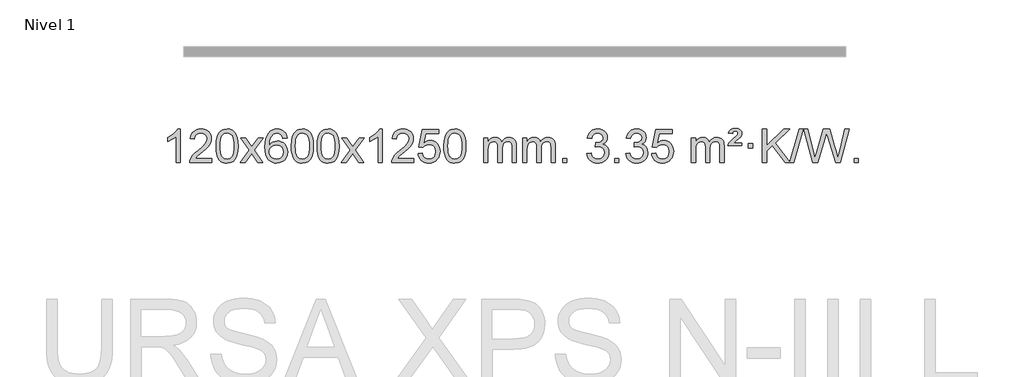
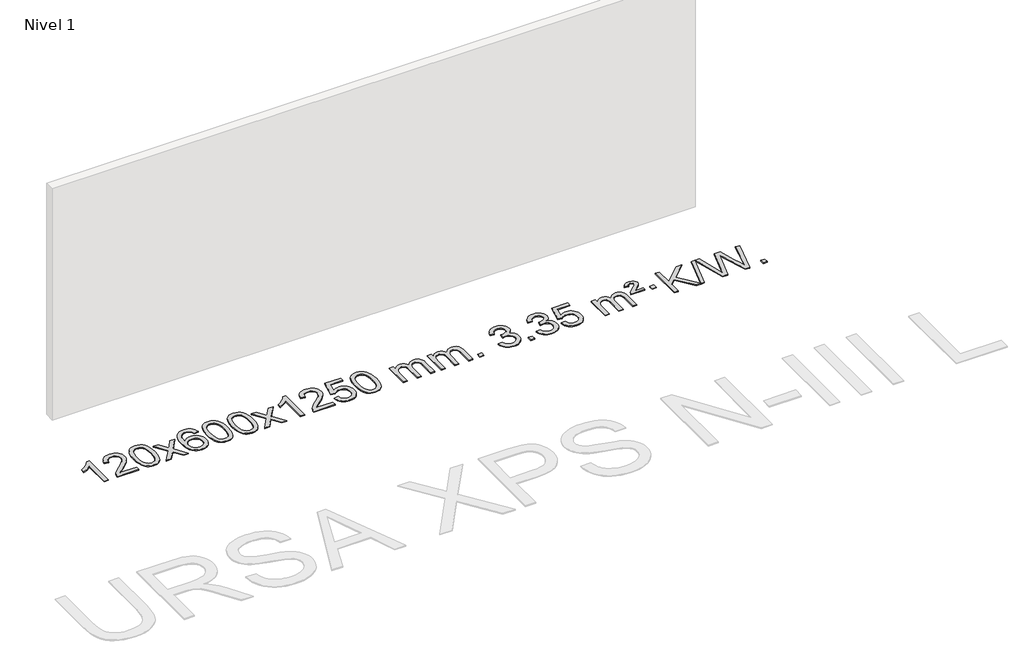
# One storey, part 2 of 8: 1 proxy.
"""IFC4 building model written with IfcOpenShell, lengths in millimetres."""

from ifc_helpers import new_model, si_unit, origin, origin_with_axes, place, context, project, spatial, polyline, outline, extrude, element, save

model = new_model("IFC4")

# Units and contexts
model_context = context("Model", 3, world=origin())
ifc_project = project(units=[si_unit("LENGTHUNIT", "METRE", prefix="MILLI")], contexts=[model_context])

# Site, building, storey
site = spatial("IfcSite", under=ifc_project)
building = spatial("IfcBuilding", under=site)
storey = spatial("IfcBuildingStorey", under=building, Name="Nivel 1", Elevation=0.0)

# Proxy
placement = place(None, origin())
element("IfcBuildingElementProxy", 1, Name="Texto de modelo 1", ObjectType="Texto de modelo 1", at=placement, inside=storey, context=model_context, shape_type="SweptSolid", body=[
    extrude(outline(polyline([(-6575.4615788, -15407.579453), (-6625.6897338, -15407.579453), (-6625.6897338, -15094.4382987), (-6646.6590076, -15111.3976587), (-6673.2691385, -15128.3324932), (-6726.146044, -15153.6918254), (-6726.146044, -15106.2105225), (-6686.6968314, -15084.7507395), (-6652.520594, -15059.219729), (-6625.5793692, -15032.0700378), (-6607.8351943, -15005.7542124), (-6575.4615788, -15005.7542124), (-6575.4615788, -15407.579453)])), origin_with_axes(), (0.0, 0.0, 1.0), 10.0),
    extrude(outline(polyline([(-6198.7504157, -15357.3512979), (-6198.7504157, -15407.579453), (-6462.4482298, -15407.579453), (-6461.3445839, -15389.8965918), (-6457.0526273, -15372.9494945), (-6444.6672667, -15345.8856424), (-6426.5429471, -15319.6311307), (-6400.3252236, -15292.1503456), (-6363.6596514, -15261.4076736), (-6309.4583708, -15213.2641831), (-6276.9376024, -15177.7267824), (-6260.6772182, -15148.884834), (-6255.2570902, -15120.8277005), (-6260.3706499, -15095.6768347), (-6275.7113291, -15074.7688747), (-6299.292565, -15060.6789943), (-6329.1277948, -15055.9823675), (-6360.4590781, -15060.5686297), (-6384.8006034, -15074.3274163), (-6400.5091646, -15096.1796068), (-6405.9415554, -15125.0460807), (-6456.1697105, -15118.7675613), (-6451.8501627, -15092.838012), (-6443.9928164, -15070.1826125), (-6432.5976716, -15050.8013627), (-6417.6647283, -15034.6942627), (-6399.537343, -15022.0329907), (-6378.5588722, -15012.989225), (-6354.729316, -15007.5629655), (-6328.0486743, -15005.7542124), (-6301.1289093, -15007.7653006), (-6277.1705943, -15013.7985654), (-6256.1737295, -15023.8540066), (-6238.1383147, -15037.9316242), (-6223.6529611, -15054.9890861), (-6213.30628, -15073.9840598), (-6207.0982713, -15094.9165453), (-6205.0289351, -15117.7865427), (-6207.2607525, -15141.8092369), (-6213.9562048, -15165.4149983), (-6225.8387933, -15189.4254299), (-6243.6320191, -15214.6621347), (-6271.9957209, -15244.7916701), (-6315.5897374, -15283.4805933), (-6373.3717361, -15331.795762), (-6396.033267, -15357.3512979), (-6198.7504157, -15357.3512979)])), origin_with_axes(), (0.0, 0.0, 1.0), 10.0),
    extrude(outline(polyline([(-6148.5222606, -15209.9041943), (-6144.8311779, -15145.5861588), (-6133.7579299, -15094.2911459), (-6115.4128811, -15055.2343407), (-6103.5548181, -15040.0009605), (-6089.9063961, -15027.6309284), (-6074.4216298, -15018.0598651), (-6057.0545339, -15011.2233914), (-6016.6733536, -15005.7542124), (-5985.722215, -15008.991574), (-5958.0084381, -15018.7036586), (-5934.8318724, -15034.5103217), (-5917.4923677, -15056.0314184), (-5904.3957686, -15083.0830078), (-5893.94792, -15115.4811488), (-5887.1053149, -15156.6226186), (-5884.8244465, -15209.9041943), (-5888.478741, -15273.8543477), (-5899.4416244, -15325.0267333), (-5917.6763087, -15364.1203266), (-5929.5067805, -15379.3996922), (-5943.1460055, -15391.8341036), (-5958.6491659, -15401.4695462), (-5976.071444, -15408.3520052), (-6016.6733536, -15413.8579724), (-6044.3380796, -15411.4667394), (-6068.8635459, -15404.2930405), (-6090.2497526, -15392.3368757), (-6108.4966996, -15375.5982449), (-6126.0078825, -15345.3399508), (-6138.5158704, -15307.6381776), (-6146.0206631, -15262.4929255), (-6148.5222606, -15209.9041943)]), holes=[polyline([(-6098.2941056, -15209.8060924), (-6096.8225776, -15253.4706195), (-6092.4079936, -15288.8148822), (-6085.0503537, -15315.8388804), (-6074.7496579, -15334.5426142), (-6062.290721, -15347.2682656), (-6048.4583579, -15356.3580165), (-6033.2525688, -15361.8118671), (-6016.6733536, -15363.6298173), (-6000.0941383, -15361.8057357), (-5984.8883492, -15356.3334911), (-5971.0559862, -15347.2130833), (-5958.5970493, -15334.4445124), (-5948.2963534, -15315.7101217), (-5940.9387135, -15288.6922549), (-5936.5241295, -15253.3909118), (-5935.0526016, -15209.8060924), (-5936.4750786, -15167.2973278), (-5940.7425098, -15132.5753989), (-5947.854895, -15105.6403055), (-5957.8122343, -15086.4920476), (-5970.0627048, -15073.1440625), (-5984.0544833, -15063.6097875), (-5999.78757, -15057.8892225), (-6017.2619648, -15055.9823675), (-6033.7553409, -15057.6623619), (-6048.7036126, -15062.7023452), (-6062.10678, -15071.1023175), (-6073.9648429, -15082.8622786), (-6084.6088953, -15103.708925), (-6092.2117899, -15131.8151094), (-6096.7735266, -15167.1808319), (-6098.2941056, -15209.8060924)])]), origin_with_axes(), (0.0, 0.0, 1.0), 10.0),
    extrude(outline(polyline([(-5859.7103689, -15407.579453), (-5752.3869282, -15259.2494325), (-5853.4318496, -15112.4890419), (-5793.0011005, -15112.4890419), (-5744.2444734, -15183.122385), (-5721.4848406, -15216.4770192), (-5701.7663657, -15189.2047007), (-5646.2407099, -15112.4890419), (-5585.8099608, -15112.4890419), (-5691.9561791, -15259.2494325), (-5589.7340354, -15407.579453), (-5650.1647845, -15407.579453), (-5711.6746541, -15318.4048574), (-5722.9563686, -15302.1199477), (-5799.2796199, -15407.579453), (-5859.7103689, -15407.579453)])), origin_with_axes(), (0.0, 0.0, 1.0), 10.0),
    extrude(outline(polyline([(-5300.9221437, -15112.4890419), (-5351.1502988, -15118.7675613), (-5359.2437027, -15093.874213), (-5370.1820607, -15076.8780648), (-5392.9662189, -15061.2062918), (-5420.5083176, -15055.9823675), (-5443.8565616, -15059.0235253), (-5465.8313794, -15068.1469988), (-5484.7037258, -15087.3627017), (-5500.1179814, -15113.8134171), (-5510.5290419, -15151.227016), (-5514.3918028, -15203.3313693), (-5494.2441322, -15179.8237098), (-5470.0988106, -15163.2567573), (-5443.3047386, -15153.434308), (-5415.2108169, -15150.1601582), (-5391.077758, -15152.398107), (-5368.8086346, -15159.1119534), (-5348.4034466, -15170.3016975), (-5329.862194, -15185.9673391), (-5314.4540698, -15205.1769106), (-5303.4482668, -15226.9984443), (-5296.844785, -15251.4319401), (-5294.6436244, -15278.4773982), (-5298.7884282, -15314.4439945), (-5311.2228396, -15347.786366), (-5330.9167891, -15376.0642287), (-5356.840207, -15396.8372987), (-5387.815871, -15409.602804), (-5422.6665587, -15413.8579724), (-5452.6090874, -15411.0375437), (-5479.6514797, -15402.5762579), (-5503.7937357, -15388.4741147), (-5525.0358552, -15368.7311143), (-5542.3539001, -15342.5133908), (-5554.7239322, -15308.9870783), (-5562.1459515, -15268.1521768), (-5564.6199579, -15220.0086864), (-5561.8731057, -15166.0342663), (-5553.632549, -15119.9693092), (-5539.8982878, -15081.8138149), (-5520.6703222, -15051.5677835), (-5499.8298072, -15031.5243462), (-5475.6660915, -15017.2076052), (-5448.179175, -15008.6175606), (-5417.3690579, -15005.7542124), (-5394.2354118, -15007.5261773), (-5373.2967949, -15012.8420722), (-5354.5532073, -15021.7018969), (-5338.0046489, -15034.1056515), (-5324.0987094, -15049.6364031), (-5313.2829788, -15067.8772186), (-5305.5574569, -15088.8280983), (-5300.9221437, -15112.4890419)]), holes=[polyline([(-5514.3918028, -15277.6925832), (-5511.485535, -15299.9494439), (-5502.7667318, -15321.2007605), (-5489.2286743, -15339.472233), (-5471.8646442, -15352.7895612), (-5450.9076332, -15360.9197533), (-5426.5906333, -15363.6298173), (-5393.4444655, -15358.0134855), (-5379.5293291, -15350.9930708), (-5367.3861575, -15341.1644901), (-5357.5361171, -15328.9262824), (-5350.500374, -15314.6769865), (-5344.8717794, -15280.1451299), (-5350.4267976, -15246.9989621), (-5357.3705702, -15233.3781312), (-5367.0918519, -15221.725469), (-5379.2718117, -15212.3904634), (-5393.5916183, -15205.7226022), (-5428.6507725, -15200.3883133), (-5461.7478893, -15205.7226022), (-5489.4248781, -15221.725469), (-5500.3479076, -15233.2248471), (-5508.1500716, -15246.3858254), (-5512.83137, -15261.2084042), (-5514.3918028, -15277.6925832)])]), origin_with_axes(), (0.0, 0.0, 1.0), 10.0),
    extrude(outline(polyline([(-5250.6939887, -15209.9041943), (-5247.002906, -15145.5861588), (-5235.9296579, -15094.2911459), (-5217.5846091, -15055.2343407), (-5205.7265461, -15040.0009605), (-5192.0781241, -15027.6309284), (-5176.5933578, -15018.0598651), (-5159.2262619, -15011.2233914), (-5118.8450816, -15005.7542124), (-5087.8939431, -15008.991574), (-5060.1801661, -15018.7036586), (-5037.0036004, -15034.5103217), (-5019.6640957, -15056.0314184), (-5006.5674967, -15083.0830078), (-4996.119648, -15115.4811488), (-4989.2770429, -15156.6226186), (-4986.9961745, -15209.9041943), (-4990.650469, -15273.8543477), (-5001.6133525, -15325.0267333), (-5019.8480367, -15364.1203266), (-5031.6785085, -15379.3996922), (-5045.3177335, -15391.8341036), (-5060.8208939, -15401.4695462), (-5078.2431721, -15408.3520052), (-5118.8450816, -15413.8579724), (-5146.5098076, -15411.4667394), (-5171.035274, -15404.2930405), (-5192.4214806, -15392.3368757), (-5210.6684276, -15375.5982449), (-5228.1796106, -15345.3399508), (-5240.6875984, -15307.6381776), (-5248.1923911, -15262.4929255), (-5250.6939887, -15209.9041943)]), holes=[polyline([(-5200.4658336, -15209.8060924), (-5198.9943056, -15253.4706195), (-5194.5797217, -15288.8148822), (-5187.2220818, -15315.8388804), (-5176.9213859, -15334.5426142), (-5164.462449, -15347.2682656), (-5150.630086, -15356.3580165), (-5135.4242968, -15361.8118671), (-5118.8450816, -15363.6298173), (-5102.2658663, -15361.8057357), (-5087.0600772, -15356.3334911), (-5073.2277142, -15347.2130833), (-5060.7687773, -15334.4445124), (-5050.4680814, -15315.7101217), (-5043.1104415, -15288.6922549), (-5038.6958576, -15253.3909118), (-5037.2243296, -15209.8060924), (-5038.6468066, -15167.2973278), (-5042.9142378, -15132.5753989), (-5050.026623, -15105.6403055), (-5059.9839624, -15086.4920476), (-5072.2344328, -15073.1440625), (-5086.2262114, -15063.6097875), (-5101.959298, -15057.8892225), (-5119.4336928, -15055.9823675), (-5135.9270689, -15057.6623619), (-5150.8753406, -15062.7023452), (-5164.278508, -15071.1023175), (-5176.136571, -15082.8622786), (-5186.7806234, -15103.708925), (-5194.3835179, -15131.8151094), (-5198.9452547, -15167.1808319), (-5200.4658336, -15209.8060924)])]), origin_with_axes(), (0.0, 0.0, 1.0), 10.0),
    extrude(outline(polyline([(-4943.0465388, -15209.9041943), (-4939.3554561, -15145.5861588), (-4928.2822081, -15094.2911459), (-4909.9371593, -15055.2343407), (-4898.0790963, -15040.0009605), (-4884.4306743, -15027.6309284), (-4868.945908, -15018.0598651), (-4851.5788121, -15011.2233914), (-4811.1976318, -15005.7542124), (-4780.2464932, -15008.991574), (-4752.5327163, -15018.7036586), (-4729.3561506, -15034.5103217), (-4712.0166459, -15056.0314184), (-4698.9200468, -15083.0830078), (-4688.4721982, -15115.4811488), (-4681.6295931, -15156.6226186), (-4679.3487247, -15209.9041943), (-4683.0030192, -15273.8543477), (-4693.9659026, -15325.0267333), (-4712.2005869, -15364.1203266), (-4724.0310587, -15379.3996922), (-4737.6702837, -15391.8341036), (-4753.1734441, -15401.4695462), (-4770.5957222, -15408.3520052), (-4811.1976318, -15413.8579724), (-4838.8623578, -15411.4667394), (-4863.3878241, -15404.2930405), (-4884.7740308, -15392.3368757), (-4903.0209778, -15375.5982449), (-4920.5321607, -15345.3399508), (-4933.0401486, -15307.6381776), (-4940.5449413, -15262.4929255), (-4943.0465388, -15209.9041943)]), holes=[polyline([(-4892.8183838, -15209.8060924), (-4891.3468558, -15253.4706195), (-4886.9322718, -15288.8148822), (-4879.5746319, -15315.8388804), (-4869.2739361, -15334.5426142), (-4856.8149992, -15347.2682656), (-4842.9826361, -15356.3580165), (-4827.776847, -15361.8118671), (-4811.1976318, -15363.6298173), (-4794.6184165, -15361.8057357), (-4779.4126274, -15356.3334911), (-4765.5802644, -15347.2130833), (-4753.1213275, -15334.4445124), (-4742.8206316, -15315.7101217), (-4735.4629917, -15288.6922549), (-4731.0484077, -15253.3909118), (-4729.5768798, -15209.8060924), (-4730.9993568, -15167.2973278), (-4735.266788, -15132.5753989), (-4742.3791732, -15105.6403055), (-4752.3365125, -15086.4920476), (-4764.586983, -15073.1440625), (-4778.5787615, -15063.6097875), (-4794.3118482, -15057.8892225), (-4811.786243, -15055.9823675), (-4828.2796191, -15057.6623619), (-4843.2278908, -15062.7023452), (-4856.6310582, -15071.1023175), (-4868.4891211, -15082.8622786), (-4879.1331735, -15103.708925), (-4886.7360681, -15131.8151094), (-4891.2978048, -15167.1808319), (-4892.8183838, -15209.8060924)])]), origin_with_axes(), (0.0, 0.0, 1.0), 10.0),
    extrude(outline(polyline([(-4654.2346472, -15407.579453), (-4546.9112064, -15259.2494325), (-4647.9561278, -15112.4890419), (-4587.5253787, -15112.4890419), (-4538.7687516, -15183.122385), (-4516.0091188, -15216.4770192), (-4496.2906439, -15189.2047007), (-4440.7649881, -15112.4890419), (-4380.334239, -15112.4890419), (-4486.4804574, -15259.2494325), (-4384.2583136, -15407.579453), (-4444.6890627, -15407.579453), (-4506.1989323, -15318.4048574), (-4517.4806468, -15302.1199477), (-4593.8038981, -15407.579453), (-4654.2346472, -15407.579453)])), origin_with_axes(), (0.0, 0.0, 1.0), 10.0),
    extrude(outline(polyline([(-4164.5101352, -15407.579453), (-4214.7382902, -15407.579453), (-4214.7382902, -15094.4382987), (-4235.707564, -15111.3976587), (-4262.317695, -15128.3324932), (-4315.1946004, -15153.6918254), (-4315.1946004, -15106.2105225), (-4275.7453878, -15084.7507395), (-4241.5691504, -15059.219729), (-4214.6279257, -15032.0700378), (-4196.8837508, -15005.7542124), (-4164.5101352, -15005.7542124), (-4164.5101352, -15407.579453)])), origin_with_axes(), (0.0, 0.0, 1.0), 10.0),
    extrude(outline(polyline([(-3787.7989721, -15357.3512979), (-3787.7989721, -15407.579453), (-4051.4967863, -15407.579453), (-4050.3931403, -15389.8965918), (-4046.1011837, -15372.9494945), (-4033.7158232, -15345.8856424), (-4015.5915035, -15319.6311307), (-3989.37378, -15292.1503456), (-3952.7082078, -15261.4076736), (-3898.5069272, -15213.2641831), (-3865.9861588, -15177.7267824), (-3849.7257746, -15148.884834), (-3844.3056466, -15120.8277005), (-3849.4192063, -15095.6768347), (-3864.7598855, -15074.7688747), (-3888.3411214, -15060.6789943), (-3918.1763512, -15055.9823675), (-3949.5076345, -15060.5686297), (-3973.8491598, -15074.3274163), (-3989.557721, -15096.1796068), (-3994.9901118, -15125.0460807), (-4045.2182669, -15118.7675613), (-4040.8987191, -15092.838012), (-4033.0413728, -15070.1826125), (-4021.646228, -15050.8013627), (-4006.7132847, -15034.6942627), (-3988.5858994, -15022.0329907), (-3967.6074286, -15012.989225), (-3943.7778724, -15007.5629655), (-3917.0972307, -15005.7542124), (-3890.1774657, -15007.7653006), (-3866.2191508, -15013.7985654), (-3845.2222859, -15023.8540066), (-3827.1868711, -15037.9316242), (-3812.7015175, -15054.9890861), (-3802.3548364, -15073.9840598), (-3796.1468277, -15094.9165453), (-3794.0774915, -15117.7865427), (-3796.3093089, -15141.8092369), (-3803.0047612, -15165.4149983), (-3814.8873497, -15189.4254299), (-3832.6805755, -15214.6621347), (-3861.0442774, -15244.7916701), (-3904.6382938, -15283.4805933), (-3962.4202925, -15331.795762), (-3985.0818234, -15357.3512979), (-3787.7989721, -15357.3512979)])), origin_with_axes(), (0.0, 0.0, 1.0), 10.0),
    extrude(outline(polyline([(-3737.570817, -15300.8446235), (-3687.342662, -15294.5661041), (-3678.1210866, -15324.7201649), (-3662.0323807, -15346.3148381), (-3639.1501206, -15359.3010725), (-3609.5478827, -15363.6298173), (-3590.418019, -15362.1245668), (-3573.5444981, -15357.6088153), (-3558.9273202, -15350.0825628), (-3546.5664851, -15339.5458094), (-3536.7379045, -15326.519721), (-3529.7174898, -15311.5254641), (-3524.101158, -15275.6324441), (-3529.3618705, -15241.8363514), (-3535.9377612, -15227.9181493), (-3545.1440081, -15215.9865099), (-3557.0112681, -15206.4154467), (-3571.5701981, -15199.5789729), (-3608.7630678, -15194.1097939), (-3633.1291186, -15196.2925604), (-3652.8598563, -15202.8408599), (-3668.6174684, -15212.8717757), (-3681.0641426, -15225.5023908), (-3731.2922977, -15219.2238715), (-3687.342662, -15012.0327318), (-3492.708561, -15012.0327318), (-3492.708561, -15062.2608869), (-3646.7284897, -15062.2608869), (-3668.2127982, -15172.919791), (-3650.4870174, -15160.2155994), (-3632.332041, -15151.1411769), (-3613.7478688, -15145.6965234), (-3594.734501, -15143.8816388), (-3570.273414, -15146.1318504), (-3547.8050212, -15152.882485), (-3527.3293225, -15164.1335427), (-3508.8463179, -15179.8850234), (-3493.5454926, -15199.1743027), (-3482.6163316, -15221.038756), (-3476.0588351, -15245.4783832), (-3473.8730029, -15272.4931844), (-3475.8411716, -15298.5147042), (-3481.7456776, -15322.7213394), (-3491.586521, -15345.1130902), (-3505.3637017, -15365.6899565), (-3526.2348735, -15386.7634634), (-3550.5886616, -15401.8159684), (-3578.4250659, -15410.8474714), (-3609.7440864, -15413.8579724), (-3635.6644387, -15411.9235262), (-3659.077062, -15406.1201877), (-3679.9819564, -15396.447957), (-3698.3791218, -15382.9068338), (-3713.6860785, -15366.1712688), (-3725.3203466, -15346.915712), (-3733.2819261, -15325.1401636), (-3737.570817, -15300.8446235)])), origin_with_axes(), (0.0, 0.0, 1.0), 10.0),
    extrude(outline(polyline([(-3429.9233672, -15209.9041943), (-3426.2322845, -15145.5861588), (-3415.1590365, -15094.2911459), (-3396.8139876, -15055.2343407), (-3384.9559247, -15040.0009605), (-3371.3075026, -15027.6309284), (-3355.8227363, -15018.0598651), (-3338.4556405, -15011.2233914), (-3298.0744601, -15005.7542124), (-3267.1233216, -15008.991574), (-3239.4095446, -15018.7036586), (-3216.2329789, -15034.5103217), (-3198.8934742, -15056.0314184), (-3185.7968752, -15083.0830078), (-3175.3490265, -15115.4811488), (-3168.5064214, -15156.6226186), (-3166.2255531, -15209.9041943), (-3169.8798475, -15273.8543477), (-3180.842731, -15325.0267333), (-3199.0774152, -15364.1203266), (-3210.9078871, -15379.3996922), (-3224.547112, -15391.8341036), (-3240.0502724, -15401.4695462), (-3257.4725506, -15408.3520052), (-3298.0744601, -15413.8579724), (-3325.7391862, -15411.4667394), (-3350.2646525, -15404.2930405), (-3371.6508592, -15392.3368757), (-3389.8978061, -15375.5982449), (-3407.4089891, -15345.3399508), (-3419.9169769, -15307.6381776), (-3427.4217696, -15262.4929255), (-3429.9233672, -15209.9041943)]), holes=[polyline([(-3379.6952121, -15209.8060924), (-3378.2236842, -15253.4706195), (-3373.8091002, -15288.8148822), (-3366.4514603, -15315.8388804), (-3356.1507644, -15334.5426142), (-3343.6918275, -15347.2682656), (-3329.8594645, -15356.3580165), (-3314.6536754, -15361.8118671), (-3298.0744601, -15363.6298173), (-3281.4952449, -15361.8057357), (-3266.2894558, -15356.3334911), (-3252.4570927, -15347.2130833), (-3239.9981558, -15334.4445124), (-3229.69746, -15315.7101217), (-3222.3398201, -15288.6922549), (-3217.9252361, -15253.3909118), (-3216.4537081, -15209.8060924), (-3217.8761852, -15167.2973278), (-3222.1436163, -15132.5753989), (-3229.2560016, -15105.6403055), (-3239.2133409, -15086.4920476), (-3251.4638113, -15073.1440625), (-3265.4555899, -15063.6097875), (-3281.1886766, -15057.8892225), (-3298.6630713, -15055.9823675), (-3315.1564474, -15057.6623619), (-3330.1047192, -15062.7023452), (-3343.5078865, -15071.1023175), (-3355.3659495, -15082.8622786), (-3366.0100019, -15103.708925), (-3373.6128965, -15131.8151094), (-3378.1746332, -15167.1808319), (-3379.6952121, -15209.8060924)])]), origin_with_axes(), (0.0, 0.0, 1.0), 10.0),
    extrude(outline(polyline([(-2952.755894, -15407.579453), (-2952.755894, -15112.4890419), (-2902.5277389, -15112.4890419), (-2902.5277389, -15161.0494653), (-2887.4200517, -15138.7435537), (-2867.9958823, -15121.2691589), (-2844.9174185, -15109.9751816), (-2818.8468478, -15106.2105225), (-2790.9123416, -15110.048758), (-2768.5205908, -15121.5634645), (-2751.7942228, -15139.9943524), (-2740.8558648, -15164.5811324), (-2722.5476041, -15139.0439906), (-2701.6641696, -15120.803175), (-2678.205561, -15109.8586857), (-2652.1717785, -15106.2105225), (-2632.0639617, -15107.7280358), (-2614.414823, -15112.2805755), (-2599.2243623, -15119.8681416), (-2586.4925796, -15130.4907342), (-2576.4279413, -15144.2709806), (-2569.238914, -15161.3315082), (-2564.9254976, -15181.6723168), (-2563.4876922, -15205.2934066), (-2563.4876922, -15407.579453), (-2613.7158472, -15407.579453), (-2613.7158472, -15226.875817), (-2614.8808069, -15201.8230531), (-2618.3756858, -15184.9372695), (-2624.9239854, -15173.3735121), (-2635.2492067, -15164.2868268), (-2648.5297467, -15158.4007149), (-2663.9440023, -15156.4386776), (-2691.1550072, -15161.4663982), (-2713.3382915, -15176.54956), (-2721.9436645, -15188.1194488), (-2728.0903595, -15202.7182326), (-2733.0077155, -15241.0024856), (-2733.0077155, -15407.579453), (-2783.2358706, -15407.579453), (-2783.2358706, -15221.2840106), (-2786.1421384, -15192.8835206), (-2794.8609417, -15172.6254854), (-2810.2016209, -15160.4853796), (-2832.9735164, -15156.4386776), (-2852.3241093, -15159.1364789), (-2870.1541233, -15167.2298828), (-2884.8694032, -15180.5226856), (-2894.8757934, -15198.8186835), (-2900.6147525, -15224.2025411), (-2902.5277389, -15258.7589232), (-2902.5277389, -15407.579453), (-2952.755894, -15407.579453)])), origin_with_axes(), (0.0, 0.0, 1.0), 10.0),
    extrude(outline(polyline([(-2488.1454596, -15407.579453), (-2488.1454596, -15112.4890419), (-2437.9173045, -15112.4890419), (-2437.9173045, -15161.0494653), (-2422.8096172, -15138.7435537), (-2403.3854479, -15121.2691589), (-2380.306984, -15109.9751816), (-2354.2364133, -15106.2105225), (-2326.3019071, -15110.048758), (-2303.9101564, -15121.5634645), (-2287.1837883, -15139.9943524), (-2276.2454303, -15164.5811324), (-2257.9371697, -15139.0439906), (-2237.0537351, -15120.803175), (-2213.5951266, -15109.8586857), (-2187.561344, -15106.2105225), (-2167.4535273, -15107.7280358), (-2149.8043886, -15112.2805755), (-2134.6139279, -15119.8681416), (-2121.8821452, -15130.4907342), (-2111.8175069, -15144.2709806), (-2104.6284796, -15161.3315082), (-2100.3150632, -15181.6723168), (-2098.8772577, -15205.2934066), (-2098.8772577, -15407.579453), (-2149.1054128, -15407.579453), (-2149.1054128, -15226.875817), (-2150.2703724, -15201.8230531), (-2153.7652514, -15184.9372695), (-2160.3135509, -15173.3735121), (-2170.6387722, -15164.2868268), (-2183.9193123, -15158.4007149), (-2199.3335679, -15156.4386776), (-2226.5445728, -15161.4663982), (-2248.7278571, -15176.54956), (-2257.3332301, -15188.1194488), (-2263.4799251, -15202.7182326), (-2268.3972811, -15241.0024856), (-2268.3972811, -15407.579453), (-2318.6254362, -15407.579453), (-2318.6254362, -15221.2840106), (-2321.5317039, -15192.8835206), (-2330.2505072, -15172.6254854), (-2345.5911864, -15160.4853796), (-2368.3630819, -15156.4386776), (-2387.7136749, -15159.1364789), (-2405.5436889, -15167.2298828), (-2420.2589687, -15180.5226856), (-2430.265359, -15198.8186835), (-2436.0043181, -15224.2025411), (-2437.9173045, -15258.7589232), (-2437.9173045, -15407.579453), (-2488.1454596, -15407.579453)])), origin_with_axes(), (0.0, 0.0, 1.0), 10.0),
    extrude(outline(polyline([(-2010.9779863, -15407.579453), (-2010.9779863, -15357.3512979), (-1960.7498313, -15357.3512979), (-1960.7498313, -15407.579453), (-2010.9779863, -15407.579453)])), origin_with_axes(), (0.0, 0.0, 1.0), 10.0),
    extrude(outline(polyline([(-1722.1660947, -15300.8446235), (-1671.9379396, -15294.5661041), (-1660.6930133, -15326.1303793), (-1644.2241626, -15347.4430095), (-1621.7220472, -15359.5831154), (-1592.3773268, -15363.6298173), (-1557.943572, -15358.0625364), (-1543.6697506, -15351.1034354), (-1531.3579665, -15341.3606939), (-1514.3618183, -15316.4428201), (-1508.6964356, -15286.2274455), (-1514.3127674, -15257.5449126), (-1531.1617628, -15234.2825078), (-1556.6682478, -15218.8682522), (-1588.2570484, -15213.730167), (-1623.4756181, -15219.2238715), (-1617.8838118, -15168.9957164), (-1609.8394588, -15169.5843276), (-1579.7467116, -15165.979084), (-1552.842275, -15155.1633534), (-1541.769027, -15146.9841103), (-1533.8595641, -15136.8673555), (-1529.1138863, -15124.8130888), (-1527.5319937, -15110.8213102), (-1532.118256, -15089.1285352), (-1545.8770426, -15071.5315131), (-1566.8708418, -15059.8696539), (-1593.1621417, -15055.9823675), (-1619.5024925, -15059.9064421), (-1641.035852, -15071.6786659), (-1656.7566759, -15091.299039), (-1665.6594202, -15118.7675613), (-1715.8875753, -15112.4890419), (-1709.9340183, -15088.5092672), (-1701.0987191, -15067.3867093), (-1689.3816775, -15049.1213683), (-1674.7828937, -15033.713244), (-1657.76222, -15021.4811677), (-1638.7795091, -15012.7439703), (-1617.8347608, -15007.5016519), (-1594.9279753, -15005.7542124), (-1563.3514373, -15009.2000404), (-1534.3500734, -15019.5375245), (-1509.8981834, -15035.8469596), (-1491.9700675, -15057.2086408), (-1480.9703959, -15081.8199463), (-1477.3038387, -15107.8782543), (-1480.7864549, -15132.1584659), (-1491.2343036, -15154.1823347), (-1508.5002319, -15172.9443165), (-1532.437087, -15187.4388671), (-1500.9954392, -15200.1430586), (-1477.6962461, -15221.77452), (-1463.2752719, -15251.1560286), (-1458.4682805, -15287.1103623), (-1460.8717762, -15312.5923218), (-1468.0822633, -15336.0631931), (-1480.0997418, -15357.5229762), (-1496.9242117, -15376.971671), (-1517.4213702, -15393.1094278), (-1540.4569145, -15404.636397), (-1566.0308445, -15411.5525785), (-1594.1431603, -15413.8579724), (-1619.5515435, -15411.8898037), (-1642.7035837, -15405.9852977), (-1663.599281, -15396.1444543), (-1682.2386355, -15382.3672736), (-1697.8674889, -15365.4630959), (-1709.7316832, -15346.2412617), (-1717.8312185, -15324.7017708), (-1722.1660947, -15300.8446235)])), origin_with_axes(), (0.0, 0.0, 1.0), 10.0),
    extrude(outline(polyline([(-1389.4045673, -15407.579453), (-1389.4045673, -15357.3512979), (-1339.1764122, -15357.3512979), (-1339.1764122, -15407.579453), (-1389.4045673, -15407.579453)])), origin_with_axes(), (0.0, 0.0, 1.0), 10.0),
    extrude(outline(polyline([(-1257.5556602, -15300.8446235), (-1207.3275051, -15294.5661041), (-1196.0825788, -15326.1303793), (-1179.6137282, -15347.4430095), (-1157.1116128, -15359.5831154), (-1127.7668923, -15363.6298173), (-1093.3331376, -15358.0625364), (-1079.0593162, -15351.1034354), (-1066.7475321, -15341.3606939), (-1049.7513839, -15316.4428201), (-1044.0860012, -15286.2274455), (-1049.7023329, -15257.5449126), (-1066.5513283, -15234.2825078), (-1092.0578133, -15218.8682522), (-1123.646614, -15213.730167), (-1158.8651836, -15219.2238715), (-1153.2733773, -15168.9957164), (-1145.2290244, -15169.5843276), (-1115.1362772, -15165.979084), (-1088.2318406, -15155.1633534), (-1077.1585925, -15146.9841103), (-1069.2491296, -15136.8673555), (-1064.5034519, -15124.8130888), (-1062.9215593, -15110.8213102), (-1067.5078215, -15089.1285352), (-1081.2666081, -15071.5315131), (-1102.2604073, -15059.8696539), (-1128.5517072, -15055.9823675), (-1154.8920581, -15059.9064421), (-1176.4254176, -15071.6786659), (-1192.1462415, -15091.299039), (-1201.0489858, -15118.7675613), (-1251.2771408, -15112.4890419), (-1245.3235839, -15088.5092672), (-1236.4882846, -15067.3867093), (-1224.7712431, -15049.1213683), (-1210.1724592, -15033.713244), (-1193.1517856, -15021.4811677), (-1174.1690746, -15012.7439703), (-1153.2243264, -15007.5016519), (-1130.3175408, -15005.7542124), (-1098.7410029, -15009.2000404), (-1069.7396389, -15019.5375245), (-1045.287749, -15035.8469596), (-1027.3596331, -15057.2086408), (-1016.3599614, -15081.8199463), (-1012.6934042, -15107.8782543), (-1016.1760205, -15132.1584659), (-1026.6238691, -15154.1823347), (-1043.8897974, -15172.9443165), (-1067.8266526, -15187.4388671), (-1036.3850047, -15200.1430586), (-1013.0858117, -15221.77452), (-998.6648375, -15251.1560286), (-993.8578461, -15287.1103623), (-996.2613418, -15312.5923218), (-1003.4718289, -15336.0631931), (-1015.4893074, -15357.5229762), (-1032.3137773, -15376.971671), (-1052.8109358, -15393.1094278), (-1075.8464801, -15404.636397), (-1101.4204101, -15411.5525785), (-1129.5327259, -15413.8579724), (-1154.941109, -15411.8898037), (-1178.0931493, -15405.9852977), (-1198.9888466, -15396.1444543), (-1217.628201, -15382.3672736), (-1233.2570544, -15365.4630959), (-1245.1212488, -15346.2412617), (-1253.220784, -15324.7017708), (-1257.5556602, -15300.8446235)])), origin_with_axes(), (0.0, 0.0, 1.0), 10.0),
    extrude(outline(polyline([(-949.9082104, -15300.8446235), (-899.6800553, -15294.5661041), (-890.45848, -15324.7201649), (-874.369774, -15346.3148381), (-851.4875139, -15359.3010725), (-821.8852761, -15363.6298173), (-802.7554123, -15362.1245668), (-785.8818915, -15357.6088153), (-771.2647135, -15350.0825628), (-758.9038785, -15339.5458094), (-749.0752979, -15326.519721), (-742.0548831, -15311.5254641), (-736.4385513, -15275.6324441), (-741.6992639, -15241.8363514), (-748.2751545, -15227.9181493), (-757.4814014, -15215.9865099), (-769.3486615, -15206.4154467), (-783.9075914, -15199.5789729), (-821.1004611, -15194.1097939), (-845.466512, -15196.2925604), (-865.1972496, -15202.8408599), (-880.9548618, -15212.8717757), (-893.4015359, -15225.5023908), (-943.629691, -15219.2238715), (-899.6800553, -15012.0327318), (-705.0459544, -15012.0327318), (-705.0459544, -15062.2608869), (-859.065883, -15062.2608869), (-880.5501916, -15172.919791), (-862.8244108, -15160.2155994), (-844.6694343, -15151.1411769), (-826.0852622, -15145.6965234), (-807.0718944, -15143.8816388), (-782.6108074, -15146.1318504), (-760.1424145, -15152.882485), (-739.6667158, -15164.1335427), (-721.1837113, -15179.8850234), (-705.8828859, -15199.1743027), (-694.953725, -15221.038756), (-688.3962284, -15245.4783832), (-686.2103962, -15272.4931844), (-688.1785649, -15298.5147042), (-694.0830709, -15322.7213394), (-703.9239143, -15345.1130902), (-717.701095, -15365.6899565), (-738.5722669, -15386.7634634), (-762.926055, -15401.8159684), (-790.7624593, -15410.8474714), (-822.0814798, -15413.8579724), (-848.001832, -15411.9235262), (-871.4144553, -15406.1201877), (-892.3193497, -15396.447957), (-910.7165152, -15382.9068338), (-926.0234719, -15366.1712688), (-937.6577399, -15346.915712), (-945.6193195, -15325.1401636), (-949.9082104, -15300.8446235)])), origin_with_axes(), (0.0, 0.0, 1.0), 10.0),
    extrude(outline(polyline([(-472.7407372, -15407.579453), (-472.7407372, -15112.4890419), (-422.5125821, -15112.4890419), (-422.5125821, -15161.0494653), (-407.4048948, -15138.7435537), (-387.9807255, -15121.2691589), (-364.9022617, -15109.9751816), (-338.8316909, -15106.2105225), (-310.8971848, -15110.048758), (-288.505434, -15121.5634645), (-271.7790659, -15139.9943524), (-260.840708, -15164.5811324), (-242.5324473, -15139.0439906), (-221.6490127, -15120.803175), (-198.1904042, -15109.8586857), (-172.1566217, -15106.2105225), (-152.0488049, -15107.7280358), (-134.3996662, -15112.2805755), (-119.2092055, -15119.8681416), (-106.4774228, -15130.4907342), (-96.4127845, -15144.2709806), (-89.2237572, -15161.3315082), (-84.9103408, -15181.6723168), (-83.4725353, -15205.2934066), (-83.4725353, -15407.579453), (-133.7006904, -15407.579453), (-133.7006904, -15226.875817), (-134.8656501, -15201.8230531), (-138.360529, -15184.9372695), (-144.9088285, -15173.3735121), (-155.2340499, -15164.2868268), (-168.5145899, -15158.4007149), (-183.9288455, -15156.4386776), (-211.1398504, -15161.4663982), (-233.3231347, -15176.54956), (-241.9285077, -15188.1194488), (-248.0752027, -15202.7182326), (-252.9925587, -15241.0024856), (-252.9925587, -15407.579453), (-303.2207138, -15407.579453), (-303.2207138, -15221.2840106), (-306.1269816, -15192.8835206), (-314.8457848, -15172.6254854), (-330.186464, -15160.4853796), (-352.9583595, -15156.4386776), (-372.3089525, -15159.1364789), (-390.1389665, -15167.2298828), (-404.8542463, -15180.5226856), (-414.8606366, -15198.8186835), (-420.5995957, -15224.2025411), (-422.5125821, -15258.7589232), (-422.5125821, -15407.579453), (-472.7407372, -15407.579453)])), origin_with_axes(), (0.0, 0.0, 1.0), 10.0),
    extrude(outline(polyline([(-39.5228997, -15206.6668327), (-35.6969269, -15190.8479069), (-27.3582683, -15174.9799302), (-5.8494344, -15149.8413272), (26.1072483, -15122.1030247), (70.2530877, -15084.726214), (77.3899984, -15073.1992448), (79.7689686, -15061.3779701), (77.8805077, -15049.2869152), (72.215125, -15039.5012541), (62.8463969, -15033.026531), (49.8478997, -15030.8682899), (37.4134883, -15032.4869707), (28.5597949, -15037.343013), (22.1341227, -15046.8098431), (16.9837748, -15062.2608869), (-33.2443803, -15055.9823675), (-22.4041241, -15030.7701881), (-5.775858, -15013.2099542), (17.9893189, -15002.9092583), (50.2403072, -14999.475693), (86.0229626, -15003.6082341), (110.7691581, -15016.0058573), (125.1901323, -15034.3386434), (129.9971237, -15056.2766731), (125.9013708, -15079.1834586), (113.6141122, -15100.8149199), (93.0862969, -15120.6314968), (56.6169284, -15148.6886303), (31.0123416, -15175.2742358), (129.9971237, -15175.2742358), (129.9971237, -15206.6668327), (-39.5228997, -15206.6668327)])), origin_with_axes(), (0.0, 0.0, 1.0), 10.0),
    extrude(outline(polyline([(205.3393563, -15231.7809102), (205.3393563, -15181.5527552), (255.5675114, -15181.5527552), (255.5675114, -15231.7809102), (205.3393563, -15231.7809102)])), origin_with_axes(), (0.0, 0.0, 1.0), 10.0),
    extrude(outline(polyline([(646.2091394, -15407.579453), (492.7778219, -15204.9009991), (425.0875348, -15269.4520265), (425.0875348, -15407.579453), (374.8593797, -15407.579453), (374.8593797, -15005.7542124), (425.0875348, -15005.7542124), (425.0875348, -15202.4484525), (631.1014521, -15005.7542124), (701.3423877, -15005.7542124), (528.388799, -15170.9577537), (703.0424089, -15401.5349332), (814.3557366, -15005.7542124), (859.6787984, -15005.7542124), (746.6654495, -15407.579453), (707.6209071, -15407.579453), (701.3423877, -15407.579453), (646.2091394, -15407.579453)])), origin_with_axes(), (0.0, 0.0, 1.0), 10.0),
    extrude(outline(polyline([(974.1636753, -15407.579453), (864.5838917, -15005.7542124), (916.3816766, -15005.7542124), (979.9516854, -15269.844434), (999.5720585, -15351.3670841), (1020.5658576, -15279.2622131), (1100.2245723, -15005.7542124), (1174.8800919, -15005.7542124), (1232.7601925, -15204.0180823), (1257.5554389, -15277.5944814), (1275.8269114, -15351.3670841), (1294.8586732, -15272.1988788), (1359.0172932, -15005.7542124), (1410.8150781, -15005.7542124), (1301.1371926, -15407.579453), (1247.4754723, -15407.579453), (1151.1394405, -15097.5775584), (1137.6994849, -15054.3146358), (1122.5917976, -15106.4067263), (1034.7906281, -15407.579453), (974.1636753, -15407.579453)])), origin_with_axes(), (0.0, 0.0, 1.0), 10.0),
    extrude(outline(polyline([(1467.3217526, -15407.579453), (1467.3217526, -15357.3512979), (1517.5499077, -15357.3512979), (1517.5499077, -15407.579453), (1467.3217526, -15407.579453)])), origin_with_axes(), (0.0, 0.0, 1.0), 10.0),
])

save(model, "model.ifc")
